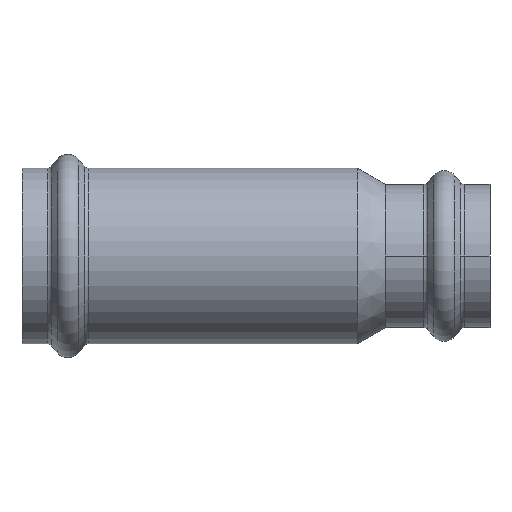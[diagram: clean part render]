
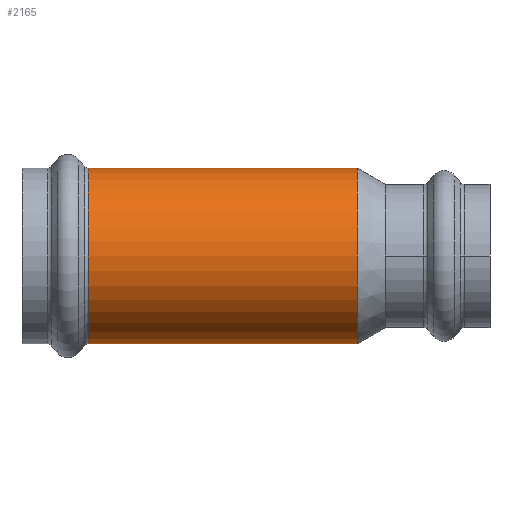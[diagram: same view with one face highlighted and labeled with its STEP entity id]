
A CAD part, front view. The second image highlights one B-rep face of the part: STEP entity #2165.
In plain terms, the highlighted cylindrical face has radius 19.15 mm (diameter 38.3 mm), a partial arc.
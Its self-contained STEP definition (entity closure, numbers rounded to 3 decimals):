
#57 = VERTEX_POINT ( 'NONE', #4015 ) ;
#89 = DIRECTION ( 'NONE',  ( 0., 0., 1. ) ) ;
#614 = CARTESIAN_POINT ( 'NONE',  ( -58.611, 0., -19.15 ) ) ;
#691 = VECTOR ( 'NONE', #1115, 1000. ) ;
#840 = ORIENTED_EDGE ( 'NONE', *, *, #4212, .F. ) ;
#851 = LINE ( 'NONE', #614, #691 ) ;
#991 = VERTEX_POINT ( 'NONE', #3301 ) ;
#1038 = VERTEX_POINT ( 'NONE', #3423 ) ;
#1115 = DIRECTION ( 'NONE',  ( -1., 0., 0. ) ) ;
#1118 = DIRECTION ( 'NONE',  ( 0., 0., -1. ) ) ;
#1192 = EDGE_LOOP ( 'NONE', ( #840, #1325, #2030, #2418 ) ) ;
#1280 = DIRECTION ( 'NONE',  ( 1., 0., 0. ) ) ;
#1325 = ORIENTED_EDGE ( 'NONE', *, *, #2613, .F. ) ;
#1400 = EDGE_CURVE ( 'NONE', #57, #991, #2086, .T. ) ;
#1949 = AXIS2_PLACEMENT_3D ( 'NONE', #2247, #4282, #89 ) ;
#1953 = VECTOR ( 'NONE', #4462, 1000. ) ;
#1990 = EDGE_CURVE ( 'NONE', #991, #1038, #2985, .T. ) ;
#2030 = ORIENTED_EDGE ( 'NONE', *, *, #1400, .T. ) ;
#2086 = LINE ( 'NONE', #5072, #1953 ) ;
#2165 = ADVANCED_FACE ( 'NONE', ( #4312 ), #5131, .T. ) ;
#2247 = CARTESIAN_POINT ( 'NONE',  ( -58.611, 0., 0. ) ) ;
#2418 = ORIENTED_EDGE ( 'NONE', *, *, #1990, .T. ) ;
#2429 = CARTESIAN_POINT ( 'NONE',  ( 24.523, 0., -19.15 ) ) ;
#2560 = CARTESIAN_POINT ( 'NONE',  ( -34.082, 0., 0. ) ) ;
#2613 = EDGE_CURVE ( 'NONE', #57, #2710, #4747, .T. ) ;
#2656 = CARTESIAN_POINT ( 'NONE',  ( 24.523, 0., 0. ) ) ;
#2664 = DIRECTION ( 'NONE',  ( 1., 0., 0. ) ) ;
#2668 = DIRECTION ( 'NONE',  ( 0., 0., 1. ) ) ;
#2710 = VERTEX_POINT ( 'NONE', #2429 ) ;
#2985 = CIRCLE ( 'NONE', #3613, 19.15 ) ;
#3301 = CARTESIAN_POINT ( 'NONE',  ( -34.082, 0., 19.15 ) ) ;
#3423 = CARTESIAN_POINT ( 'NONE',  ( -34.082, 0., -19.15 ) ) ;
#3613 = AXIS2_PLACEMENT_3D ( 'NONE', #2560, #1280, #1118 ) ;
#4015 = CARTESIAN_POINT ( 'NONE',  ( 24.523, 0., 19.15 ) ) ;
#4152 = AXIS2_PLACEMENT_3D ( 'NONE', #2656, #2664, #2668 ) ;
#4212 = EDGE_CURVE ( 'NONE', #2710, #1038, #851, .T. ) ;
#4282 = DIRECTION ( 'NONE',  ( -1., 0., 0. ) ) ;
#4312 = FACE_OUTER_BOUND ( 'NONE', #1192, .T. ) ;
#4462 = DIRECTION ( 'NONE',  ( -1., 0., 0. ) ) ;
#4747 = CIRCLE ( 'NONE', #4152, 19.15 ) ;
#5072 = CARTESIAN_POINT ( 'NONE',  ( -58.611, 0., 19.15 ) ) ;
#5131 = CYLINDRICAL_SURFACE ( 'NONE', #1949, 19.15 ) ;
